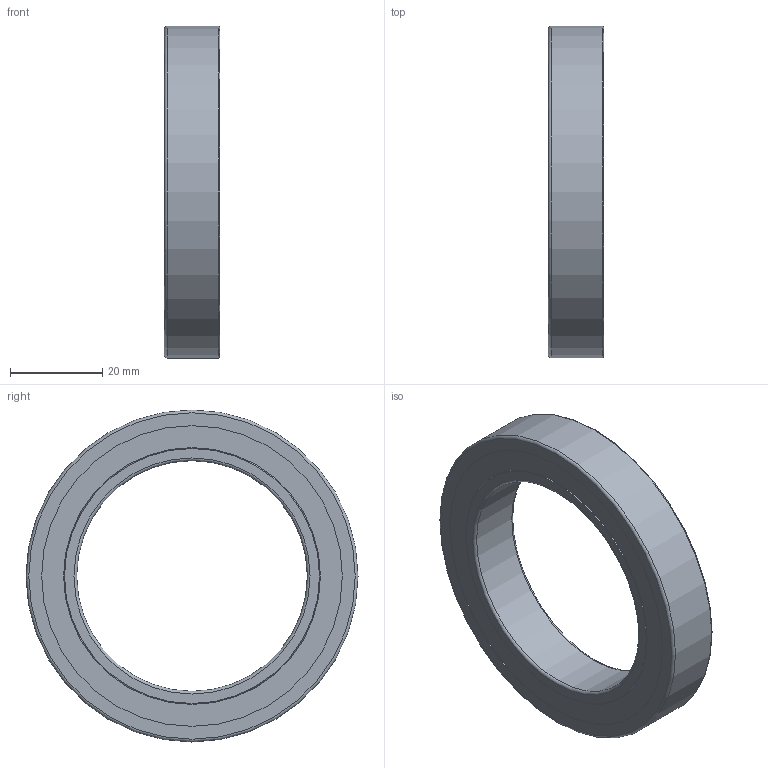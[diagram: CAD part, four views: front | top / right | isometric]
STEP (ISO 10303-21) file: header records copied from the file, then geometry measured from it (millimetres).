
FILE_DESCRIPTION(/* description */ (''),/* implementation_level */ '2;1');
FILE_NAME(/* name */ 'KH_61910_TA.step',/* time_stamp */ '2013-03-07T07:06:12+01:00',/* author */ ('Marian'),/* organization */ ('GMN'),/* preprocessor_version */ 'ST-DEVELOPER v11',/* originating_system */ 'SIEMENS UGS NX 6.0',/* authorisation */ '');
FILE_SCHEMA (('CONFIG_CONTROL_DESIGN'));
Length unit declared in the file: millimetre
Products named in the file (1): KH_61910_TA
Bounding box: 12 x 72 x 72 mm (x, y, z)
Volume: 20119 mm3; surface area: 21039.6 mm2
Topology: 35 solids, 35 shells, 92 faces, 236 edges, 154 vertices
Faces by surface type: cylinder 43, sphere 30, plane 12, torus 6, cone 1
Full cylindrical faces by diameter (mm): 4.962 x30, 50 x1, 55.3 x1, 55.7 x1, 56.8 x1, 57.2 x1, 59.662 x1, 62.524 x1, 62.924 x1, 65.2 x2, 66.7 x2, 72 x1
Entity records: 5362 total; most frequent: CARTESIAN_POINT 3727, DIRECTION 250, FACE_BOUND 214, EDGE_LOOP 184, ORIENTED_EDGE 184, AXIS2_PLACEMENT_3D 125, VERTEX_POINT 122, ADVANCED_FACE 92
